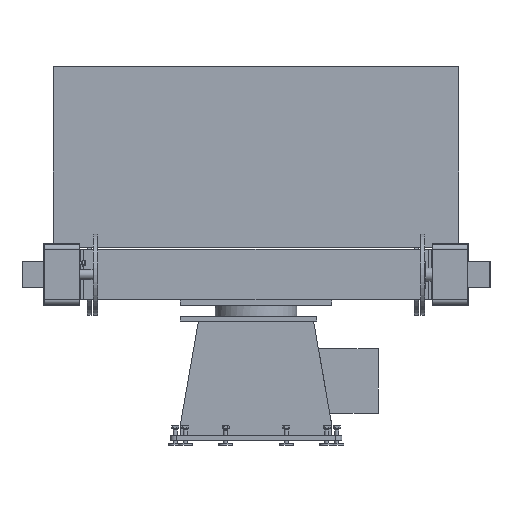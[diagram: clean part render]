
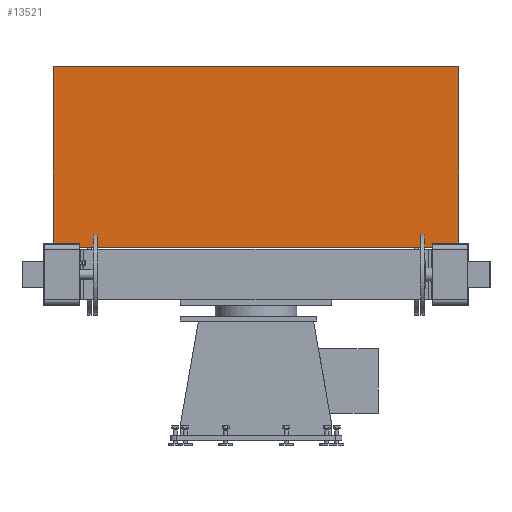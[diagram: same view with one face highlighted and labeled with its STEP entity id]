
A CAD part, front view. The second image highlights one B-rep face of the part: STEP entity #13521.
In plain terms, the highlighted planar face has unit normal (0, -1, 0) as drawn and (-1, 0, 0) by its records, which use the part's own axes.
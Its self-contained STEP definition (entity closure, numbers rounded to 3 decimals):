
#13104=CARTESIAN_POINT('',(-41.,-957.5,5.));
#13105=VERTEX_POINT('',#13104);
#13114=CARTESIAN_POINT('',(-41.,957.5,5.));
#13115=VERTEX_POINT('',#13114);
#13116=CARTESIAN_POINT('',(-41.,957.5,5.));
#13117=DIRECTION('',(0.0,-1.0,0.0));
#13118=VECTOR('',#13117,1915.0);
#13119=LINE('',#13116,#13118);
#13120=EDGE_CURVE('',#13115,#13105,#13119,.T.);
#13146=CARTESIAN_POINT('',(-41.,1002.5,899.));
#13147=VERTEX_POINT('',#13146);
#13162=CARTESIAN_POINT('',(-41.,1002.5,5.));
#13163=VERTEX_POINT('',#13162);
#13170=CARTESIAN_POINT('',(-41.,1002.5,899.));
#13171=DIRECTION('',(0.0,0.0,-1.0));
#13172=VECTOR('',#13171,894.);
#13173=LINE('',#13170,#13172);
#13174=EDGE_CURVE('',#13147,#13163,#13173,.T.);
#13228=CARTESIAN_POINT('',(-41.,957.5,5.));
#13229=DIRECTION('',(0.0,1.0,0.0));
#13230=VECTOR('',#13229,45.0);
#13231=LINE('',#13228,#13230);
#13232=EDGE_CURVE('',#13115,#13163,#13231,.T.);
#13463=CARTESIAN_POINT('',(-41.,-1002.5,899.));
#13464=VERTEX_POINT('',#13463);
#13473=CARTESIAN_POINT('',(-41.,-1002.5,5.));
#13474=VERTEX_POINT('',#13473);
#13475=CARTESIAN_POINT('',(-41.,-1002.5,5.));
#13476=DIRECTION('',(0.0,0.0,1.0));
#13477=VECTOR('',#13476,894.0);
#13478=LINE('',#13475,#13477);
#13479=EDGE_CURVE('',#13474,#13464,#13478,.T.);
#13498=CARTESIAN_POINT('',(-41.,-996.5,5.));
#13499=DIRECTION('',(-1.0,0.0,0.0));
#13500=DIRECTION('',(0.0,0.0,1.0));
#13501=AXIS2_PLACEMENT_3D('',#13498,#13499,#13500);
#13502=PLANE('',#13501);
#13503=CARTESIAN_POINT('',(-41.,1002.5,899.));
#13504=DIRECTION('',(0.0,-1.0,0.0));
#13505=VECTOR('',#13504,2005.);
#13506=LINE('',#13503,#13505);
#13507=EDGE_CURVE('',#13147,#13464,#13506,.T.);
#13508=ORIENTED_EDGE('',*,*,#13507,.F.);
#13509=ORIENTED_EDGE('',*,*,#13174,.T.);
#13510=ORIENTED_EDGE('',*,*,#13232,.F.);
#13511=ORIENTED_EDGE('',*,*,#13120,.T.);
#13512=CARTESIAN_POINT('',(-41.,-1002.5,5.));
#13513=DIRECTION('',(0.0,1.0,0.0));
#13514=VECTOR('',#13513,45.0);
#13515=LINE('',#13512,#13514);
#13516=EDGE_CURVE('',#13474,#13105,#13515,.T.);
#13517=ORIENTED_EDGE('',*,*,#13516,.F.);
#13518=ORIENTED_EDGE('',*,*,#13479,.T.);
#13519=EDGE_LOOP('',(#13508,#13509,#13510,#13511,#13517,#13518));
#13520=FACE_OUTER_BOUND('',#13519,.T.);
#13521=ADVANCED_FACE('',(#13520),#13502,.T.);
